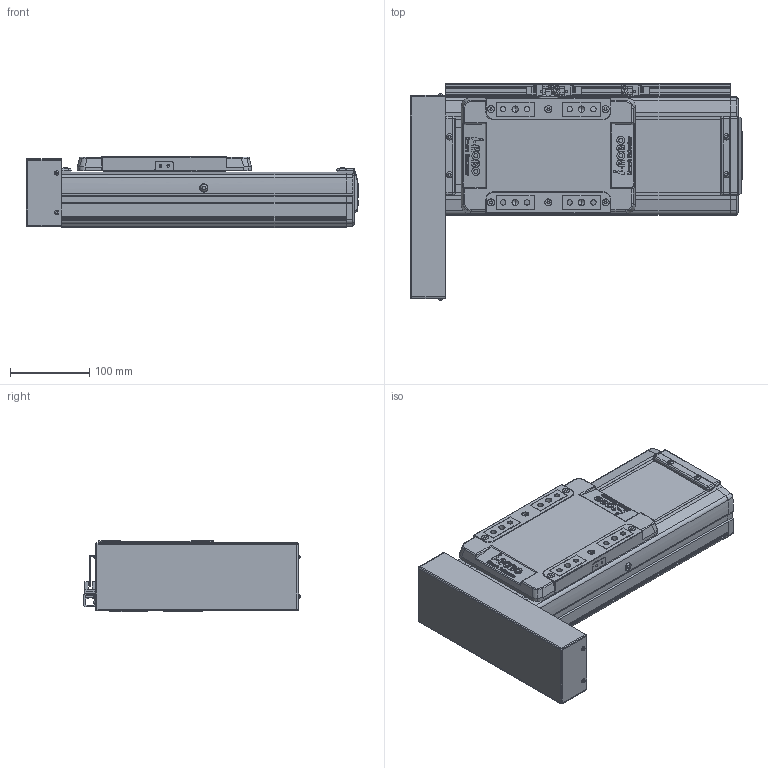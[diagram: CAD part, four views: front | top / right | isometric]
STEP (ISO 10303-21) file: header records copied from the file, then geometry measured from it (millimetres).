
FILE_DESCRIPTION(('STEP AP214'),'1');
FILE_NAME('Z:/Web/3D/SAN150/2013.04 (STP.)/SAN150ㅁㅁ-100PR+3SL.stp','2013-05-08T02:43:51',(' '),(' '),'Spatial InterOp 3D',' ',' ');
FILE_SCHEMA(('automotive_design'));
Length unit declared in the file: millimetre
Products named in the file (56): SLBL-SAN150; SLCV-SAN150; FHCS M4.0 x 8.0; BHCS M4.0 x 10.0; SFX-SAN150; RRCV-SAN150; FRBL-SAN150; Spacer; RN15; FRCV-SAN150; Screw 20; BASE-SAN150-000L ; SUS COVER; 스크루 : Round - M5.0 x 6.0; BHCS M3.0 x 6.0; P; M3.0 x 6.0; SRL-16x17-360L; SGD-SAN150; EE-SX674; SBK-SX674-352; 스크루 : Round - M3.0 x 6.0
Bounding box: 420 x 273.36 x 90 mm (x, y, z)
Volume: 3743969.8 mm3; surface area: 658186.6 mm2
Topology: 56 solids, 56 shells, 2508 faces, 6453 edges, 4154 vertices
Faces by surface type: plane 1362, cylinder 799, cone 238, sphere 76, bspline 21, torus 12
Entity records: 98876 total; most frequent: CARTESIAN_POINT 15293, DIRECTION 13628, ORIENTED_EDGE 12706, EDGE_CURVE 6353, AXIS2_PLACEMENT_3D 4796, VERTEX_POINT 4154, LINE 4036, VECTOR 4036
